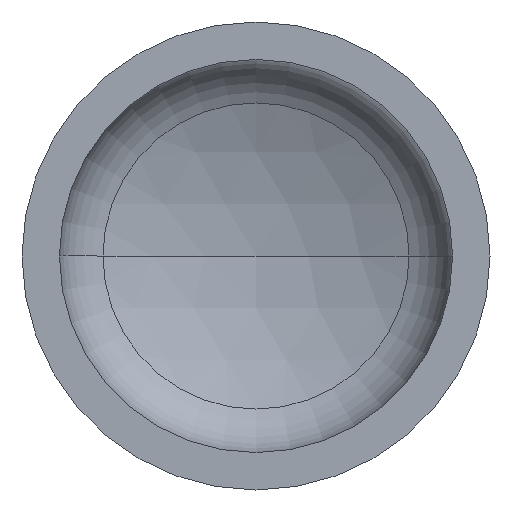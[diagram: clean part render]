
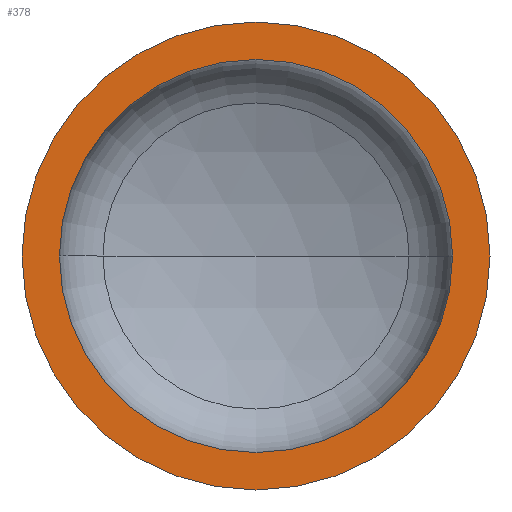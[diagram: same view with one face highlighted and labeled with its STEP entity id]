
A CAD part, front view. The second image highlights one B-rep face of the part: STEP entity #378.
In plain terms, the highlighted planar face has unit normal (0, -1, 0).
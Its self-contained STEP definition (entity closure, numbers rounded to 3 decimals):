
#3 = EDGE_LOOP ( 'NONE', ( #78, #13 ) ) ;
#4 = CARTESIAN_POINT ( 'NONE',  ( -350., 0., 0. ) ) ;
#11 = CARTESIAN_POINT ( 'NONE',  ( 294., 0., 0. ) ) ;
#13 = ORIENTED_EDGE ( 'NONE', *, *, #121, .T. ) ;
#23 = DIRECTION ( 'NONE',  ( 1., 0., 0. ) ) ;
#38 = AXIS2_PLACEMENT_3D ( 'NONE', #303, #376, #236 ) ;
#45 = EDGE_LOOP ( 'NONE', ( #150, #117 ) ) ;
#56 = VERTEX_POINT ( 'NONE', #275 ) ;
#78 = ORIENTED_EDGE ( 'NONE', *, *, #385, .T. ) ;
#80 = AXIS2_PLACEMENT_3D ( 'NONE', #313, #319, #318 ) ;
#81 = AXIS2_PLACEMENT_3D ( 'NONE', #253, #367, #369 ) ;
#83 = CIRCLE ( 'NONE', #393, 294. ) ;
#91 = DIRECTION ( 'NONE',  ( 0., -1., 0. ) ) ;
#117 = ORIENTED_EDGE ( 'NONE', *, *, #384, .F. ) ;
#121 = EDGE_CURVE ( 'NONE', #142, #213, #317, .T. ) ;
#122 = EDGE_CURVE ( 'NONE', #149, #56, #383, .T. ) ;
#136 = FACE_BOUND ( 'NONE', #45, .T. ) ;
#142 = VERTEX_POINT ( 'NONE', #4 ) ;
#149 = VERTEX_POINT ( 'NONE', #11 ) ;
#150 = ORIENTED_EDGE ( 'NONE', *, *, #122, .F. ) ;
#165 = PLANE ( 'NONE',  #408 ) ;
#166 = DIRECTION ( 'NONE',  ( 0., 1., 0. ) ) ;
#213 = VERTEX_POINT ( 'NONE', #268 ) ;
#214 = CARTESIAN_POINT ( 'NONE',  ( -350., 0., 0. ) ) ;
#236 = DIRECTION ( 'NONE',  ( 1., 0., 0. ) ) ;
#253 = CARTESIAN_POINT ( 'NONE',  ( 0., 0., 0. ) ) ;
#260 = CARTESIAN_POINT ( 'NONE',  ( 0., 0., 0. ) ) ;
#268 = CARTESIAN_POINT ( 'NONE',  ( 350., 0., 0. ) ) ;
#275 = CARTESIAN_POINT ( 'NONE',  ( -294., 0., 0. ) ) ;
#303 = CARTESIAN_POINT ( 'NONE',  ( 0., 0., 0. ) ) ;
#313 = CARTESIAN_POINT ( 'NONE',  ( 0., 0., 0. ) ) ;
#317 = CIRCLE ( 'NONE', #81, 350. ) ;
#318 = DIRECTION ( 'NONE',  ( 1., 0., 0. ) ) ;
#319 = DIRECTION ( 'NONE',  ( 0., -1., 0. ) ) ;
#337 = DIRECTION ( 'NONE',  ( -1., 0., 0. ) ) ;
#367 = DIRECTION ( 'NONE',  ( 0., -1., 0. ) ) ;
#369 = DIRECTION ( 'NONE',  ( 1., 0., 0. ) ) ;
#376 = DIRECTION ( 'NONE',  ( 0., -1., 0. ) ) ;
#378 = ADVANCED_FACE ( 'NONE', ( #136, #386 ), #165, .F. ) ;
#379 = CIRCLE ( 'NONE', #38, 350. ) ;
#383 = CIRCLE ( 'NONE', #80, 294. ) ;
#384 = EDGE_CURVE ( 'NONE', #56, #149, #83, .T. ) ;
#385 = EDGE_CURVE ( 'NONE', #213, #142, #379, .T. ) ;
#386 = FACE_OUTER_BOUND ( 'NONE', #3, .T. ) ;
#393 = AXIS2_PLACEMENT_3D ( 'NONE', #260, #91, #23 ) ;
#408 = AXIS2_PLACEMENT_3D ( 'NONE', #214, #166, #337 ) ;
